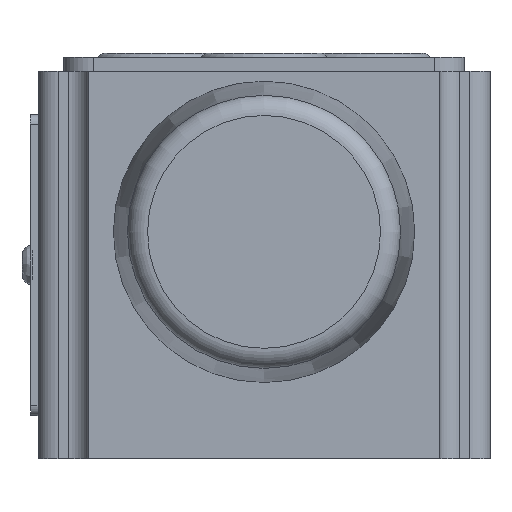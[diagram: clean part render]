
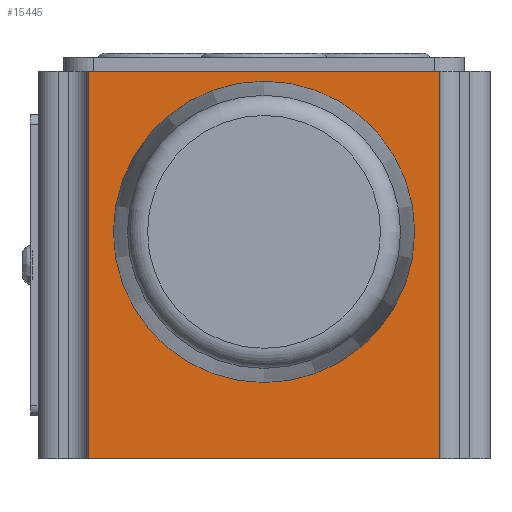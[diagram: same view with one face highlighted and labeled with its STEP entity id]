
A CAD part, left-side view. The second image highlights one B-rep face of the part: STEP entity #15445.
In plain terms, the highlighted planar face has unit normal (-1, 0, 0).
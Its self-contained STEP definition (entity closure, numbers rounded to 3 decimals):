
#2098=LINE('',#44758,#3775);
#2099=LINE('',#44766,#3776);
#2100=LINE('',#44768,#3777);
#2101=LINE('',#44770,#3778);
#3775=VECTOR('',#21861,1.);
#3776=VECTOR('',#21872,1.);
#3777=VECTOR('',#21873,1.);
#3778=VECTOR('',#21874,1.);
#4552=PLANE('',#18420);
#6250=EDGE_LOOP('',(#9888));
#6251=EDGE_LOOP('',(#9889,#9890,#9891,#9892));
#9888=ORIENTED_EDGE('',*,*,#13080,.F.);
#9889=ORIENTED_EDGE('',*,*,#13082,.F.);
#9890=ORIENTED_EDGE('',*,*,#13079,.F.);
#9891=ORIENTED_EDGE('',*,*,#13083,.T.);
#9892=ORIENTED_EDGE('',*,*,#13084,.T.);
#13079=EDGE_CURVE('',#17176,#17175,#2098,.T.);
#13080=EDGE_CURVE('',#17177,#17177,#13968,.T.);
#13082=EDGE_CURVE('',#17175,#17179,#2099,.T.);
#13083=EDGE_CURVE('',#17176,#17180,#2100,.T.);
#13084=EDGE_CURVE('',#17180,#17179,#2101,.T.);
#13968=CIRCLE('',#18416,13.25);
#15445=ADVANCED_FACE('',(#15904,#15905),#4552,.T.);
#15904=FACE_BOUND('',#6250,.T.);
#15905=FACE_BOUND('',#6251,.T.);
#17175=VERTEX_POINT('',#44755);
#17176=VERTEX_POINT('',#44757);
#17177=VERTEX_POINT('',#44761);
#17179=VERTEX_POINT('',#44767);
#17180=VERTEX_POINT('',#44769);
#18416=AXIS2_PLACEMENT_3D('',#44760,#21864,#21865);
#18420=AXIS2_PLACEMENT_3D('',#44771,#21875,#21876);
#21861=DIRECTION('',(0.,0.,-1.));
#21864=DIRECTION('',(-1.,0.,0.));
#21865=DIRECTION('',(0.,0.,1.));
#21872=DIRECTION('',(0.,1.,0.));
#21873=DIRECTION('',(0.,1.,0.));
#21874=DIRECTION('',(0.,0.,-1.));
#21875=DIRECTION('',(-1.,0.,0.));
#21876=DIRECTION('',(0.,0.,-1.));
#44755=CARTESIAN_POINT('',(-32.504,44.452,-0.006));
#44757=CARTESIAN_POINT('',(-32.504,44.452,38.594));
#44758=CARTESIAN_POINT('',(-32.504,44.452,38.594));
#44760=CARTESIAN_POINT('',(-32.504,61.952,22.594));
#44761=CARTESIAN_POINT('',(-32.504,61.952,35.844));
#44766=CARTESIAN_POINT('',(-32.504,44.452,-0.006));
#44767=CARTESIAN_POINT('',(-32.504,79.452,-0.006));
#44768=CARTESIAN_POINT('',(-32.504,44.452,38.594));
#44769=CARTESIAN_POINT('',(-32.504,79.452,38.594));
#44770=CARTESIAN_POINT('',(-32.504,79.452,38.594));
#44771=CARTESIAN_POINT('',(-32.504,44.452,38.594));
